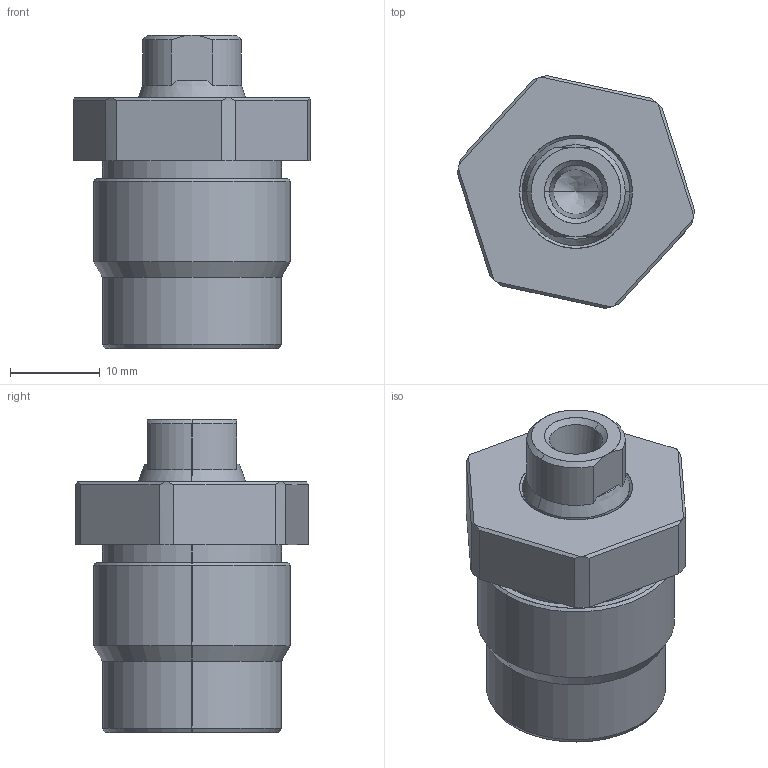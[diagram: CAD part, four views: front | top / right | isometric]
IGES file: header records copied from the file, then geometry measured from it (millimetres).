
Start section: SolidWorks IGES file using analytic representation for surfaces
Global section: file name: E:\ALL SSVT IGS MODEL\ALL THREADED BODY CYLINDER-S-M-L-IGS MODEL\TC06-M221-S-M-L-IGS-AND STEPP FILE\TC06-M22X1.5-S.IGS; native system: SolidWorks 2019; preprocessor: SolidWorks 2019; author: SSVT; date: 210827.111717; units: millimetre
Bounding box: 26.49 x 25.99 x 35 mm (x, y, z)
Surface area: 5227.4 mm2 (no closed solid volume)
Topology: 0 solids, 0 shells, 68 faces, 657 edges, 655 vertices
Faces by surface type: revolution 44, bspline 24
